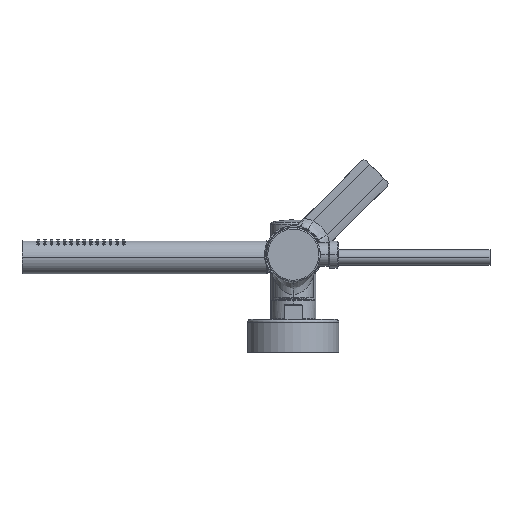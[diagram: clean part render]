
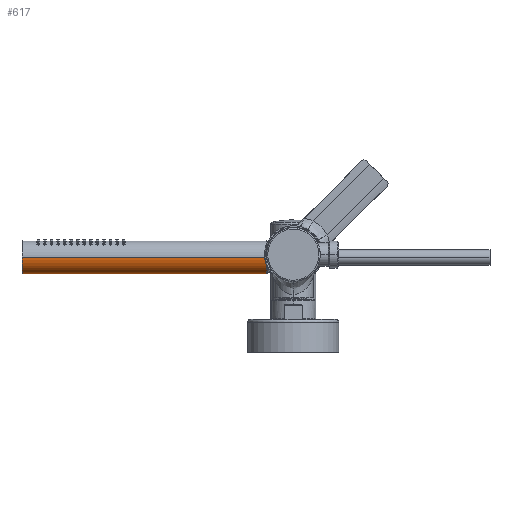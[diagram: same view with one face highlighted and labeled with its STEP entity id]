
A CAD part, left-side view. The second image highlights one B-rep face of the part: STEP entity #617.
In plain terms, the highlighted cylindrical face has radius 12.5 mm (diameter 25 mm), a partial arc.
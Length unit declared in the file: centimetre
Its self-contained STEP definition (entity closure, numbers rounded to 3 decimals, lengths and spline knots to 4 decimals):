
#617=ADVANCED_FACE('',(#2409),#27854,.T.);
#2409=FACE_OUTER_BOUND('',#4261,.T.);
#4261=EDGE_LOOP('',(#6406,#6407,#6408,#6409));
#6406=ORIENTED_EDGE('',*,*,#15132,.F.);
#6407=ORIENTED_EDGE('',*,*,#15133,.F.);
#6408=ORIENTED_EDGE('',*,*,#15136,.T.);
#6409=ORIENTED_EDGE('',*,*,#15099,.F.);
#15099=EDGE_CURVE('',#25053,#25055,#21715,.T.);
#15132=EDGE_CURVE('',#25052,#25053,#19502,.T.);
#15133=EDGE_CURVE('',#25054,#25052,#21744,.T.);
#15136=EDGE_CURVE('',#25054,#25055,#19505,.T.);
#19502=TRIMMED_CURVE($,#20600,(#41615),(#41616),.T.,.CARTESIAN.);
#19505=TRIMMED_CURVE($,#20603,(#41626),(#41627),.T.,.CARTESIAN.);
#20600=CIRCLE('',#29804,1.25);
#20603=CIRCLE('',#29807,1.25);
#21715=B_SPLINE_CURVE_WITH_KNOTS('',1,(#40172,#40173),.UNSPECIFIED.,.F.,
 .F.,(2,2),(-186.4,0.),.UNSPECIFIED.);
#21744=B_SPLINE_CURVE_WITH_KNOTS('',1,(#41617,#41618),.UNSPECIFIED.,.F.,
 .F.,(2,2),(0.,186.4),.UNSPECIFIED.);
#25052=VERTEX_POINT('',#39452);
#25053=VERTEX_POINT('',#39453);
#25054=VERTEX_POINT('',#39454);
#25055=VERTEX_POINT('',#39455);
#27854=CYLINDRICAL_SURFACE('',#29418,1.25);
#29418=AXIS2_PLACEMENT_3D('',#35925,#31972,$);
#29804=AXIS2_PLACEMENT_3D($,#41614,#32366,#32367);
#29807=AXIS2_PLACEMENT_3D($,#41625,#32372,#32373);
#31972=DIRECTION('',(0.,1.,0.));
#32366=DIRECTION('',(0.,1.,0.));
#32367=DIRECTION('',(1.,0.,0.));
#32372=DIRECTION('',(0.,1.,0.));
#32373=DIRECTION('',(1.,0.,0.));
#35925=CARTESIAN_POINT('',(24.155,11.35,-0.2137));
#39452=CARTESIAN_POINT('',(25.405,20.67,-0.2137));
#39453=CARTESIAN_POINT('',(22.905,20.67,-0.2137));
#39454=CARTESIAN_POINT('',(25.405,2.03,-0.2137));
#39455=CARTESIAN_POINT('',(22.905,2.03,-0.2137));
#40172=CARTESIAN_POINT('',(22.905,20.67,-0.2137));
#40173=CARTESIAN_POINT('',(22.905,2.03,-0.2137));
#41614=CARTESIAN_POINT('',(24.155,20.67,-0.2137));
#41615=CARTESIAN_POINT('',(25.405,20.67,-0.2137));
#41616=CARTESIAN_POINT('',(22.905,20.67,-0.2137));
#41617=CARTESIAN_POINT('',(25.405,2.03,-0.2137));
#41618=CARTESIAN_POINT('',(25.405,20.67,-0.2137));
#41625=CARTESIAN_POINT('',(24.155,2.03,-0.2137));
#41626=CARTESIAN_POINT('',(25.405,2.03,-0.2137));
#41627=CARTESIAN_POINT('',(22.905,2.03,-0.2137));
